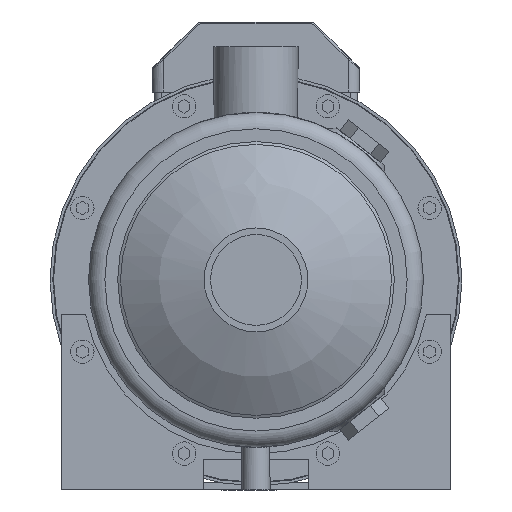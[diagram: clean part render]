
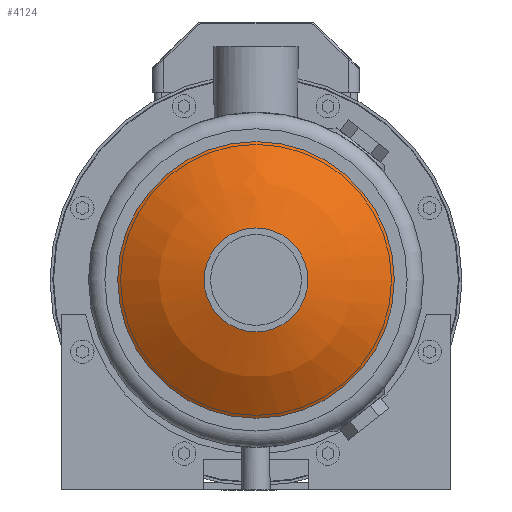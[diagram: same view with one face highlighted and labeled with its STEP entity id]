
A CAD part, left-side view. The second image highlights one B-rep face of the part: STEP entity #4124.
In plain terms, the highlighted spherical face has radius 100 mm.
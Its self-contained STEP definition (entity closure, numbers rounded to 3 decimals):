
#63=SPHERICAL_SURFACE('',#5530,100.);
#953=ORIENTED_EDGE('',*,*,#2066,.T.);
#954=ORIENTED_EDGE('',*,*,#2065,.F.);
#2065=EDGE_CURVE('',#2626,#2626,#3010,.T.);
#2066=EDGE_CURVE('',#2627,#2627,#3011,.T.);
#2626=VERTEX_POINT('',#7397);
#2627=VERTEX_POINT('',#7400);
#3010=CIRCLE('',#5529,22.25);
#3011=CIRCLE('',#5531,59.25);
#3198=EDGE_LOOP('',(#953));
#3199=EDGE_LOOP('',(#954));
#3587=FACE_BOUND('',#3198,.T.);
#3588=FACE_BOUND('',#3199,.T.);
#4124=ADVANCED_FACE('',(#3587,#3588),#63,.T.);
#5529=AXIS2_PLACEMENT_3D('',#7396,#6035,#6036);
#5530=AXIS2_PLACEMENT_3D('',#7398,#6037,#6038);
#5531=AXIS2_PLACEMENT_3D('',#7399,#6039,#6040);
#6035=DIRECTION('',(-1.,0.,0.));
#6036=DIRECTION('',(0.,0.,1.));
#6037=DIRECTION('',(-1.,0.,0.));
#6038=DIRECTION('',(0.,0.,1.));
#6039=DIRECTION('',(-1.,0.,0.));
#6040=DIRECTION('',(0.,0.,1.));
#7396=CARTESIAN_POINT('',(-187.293,0.,0.));
#7397=CARTESIAN_POINT('',(-187.293,0.,22.25));
#7398=CARTESIAN_POINT('',(-89.8,0.,0.));
#7399=CARTESIAN_POINT('',(-170.357,0.,0.));
#7400=CARTESIAN_POINT('',(-170.357,0.,59.25));
